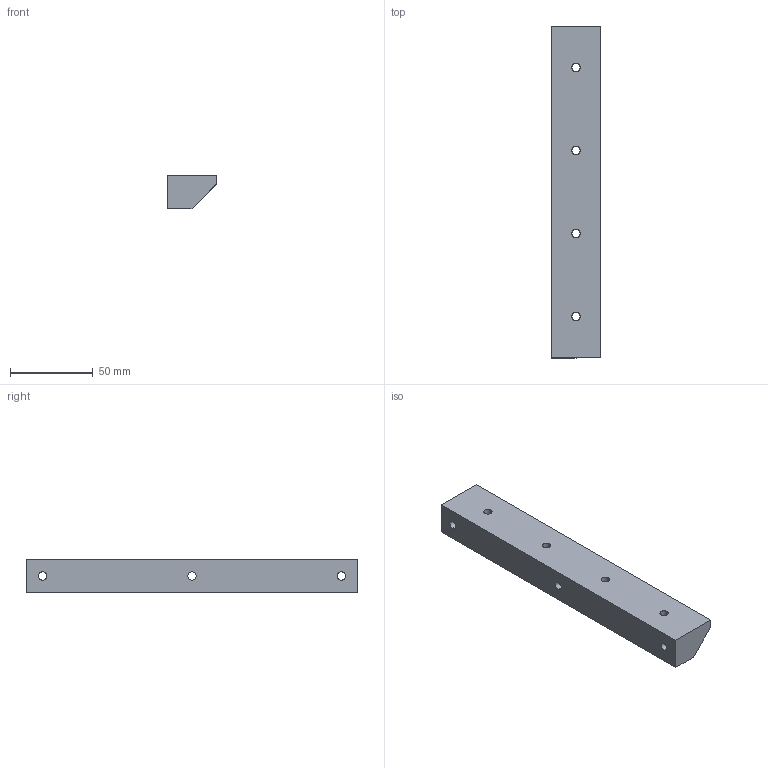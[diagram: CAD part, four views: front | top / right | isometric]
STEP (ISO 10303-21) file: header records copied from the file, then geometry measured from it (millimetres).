
FILE_DESCRIPTION (( 'STEP AP203' ), '1' );
FILE_NAME ('stol mount.STEP', '2023-07-14T20:15:14', ( '' ), ( '' ), 'SwSTEP 2.0', 'SolidWorks 2014', '' );
FILE_SCHEMA (( 'CONFIG_CONTROL_DESIGN' ));
Length unit declared in the file: millimetre
Products named in the file (1): stol mount
Bounding box: 30 x 200 x 20 mm (x, y, z)
Volume: 86397.3 mm3; surface area: 22973.5 mm2
Topology: 1 solids, 1 shells, 42 faces, 120 edges, 80 vertices
Faces by surface type: cylinder 28, plane 14
Entity records: 1505 total; most frequent: CARTESIAN_POINT 285, DIRECTION 248, ORIENTED_EDGE 240, EDGE_CURVE 120, AXIS2_PLACEMENT_3D 99, VERTEX_POINT 80, CIRCLE 56, EDGE_LOOP 56
